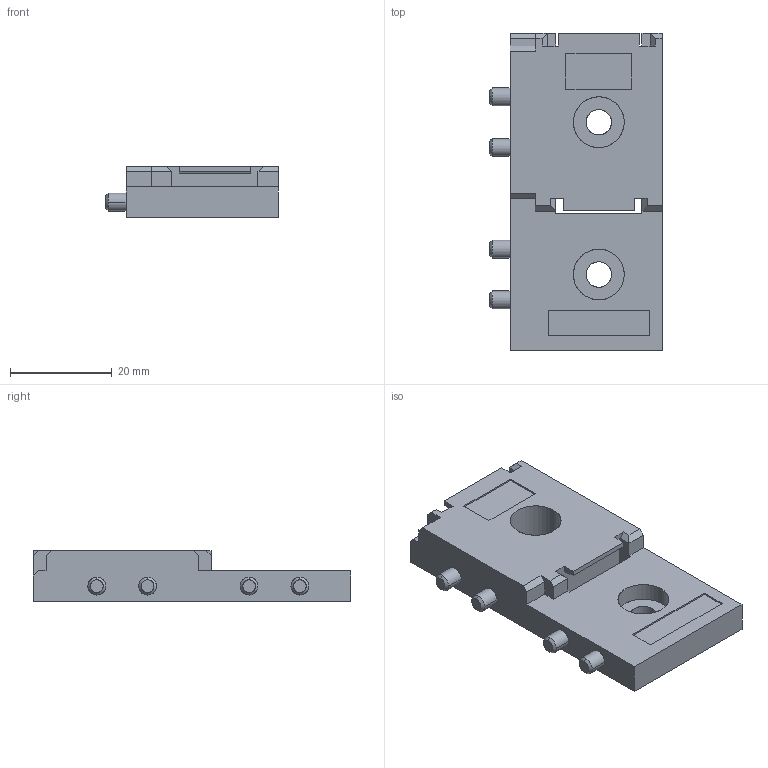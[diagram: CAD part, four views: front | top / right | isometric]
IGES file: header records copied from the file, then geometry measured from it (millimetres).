
Start section: SolidWorks IGES file using analytic representation for surfaces
Global section: file name: C:\catalog\afp0811.IGS; native system: SolidWorks 2010; preprocessor: SolidWorks 2010; author: E184722; date: 150703.105453; units: millimetre
Bounding box: 34 x 62.5 x 10 mm (x, y, z)
Surface area: 6386.5 mm2 (no closed solid volume)
Topology: 0 solids, 0 shells, 97 faces, 1216 edges, 1216 vertices
Faces by surface type: bspline 65, revolution 32
